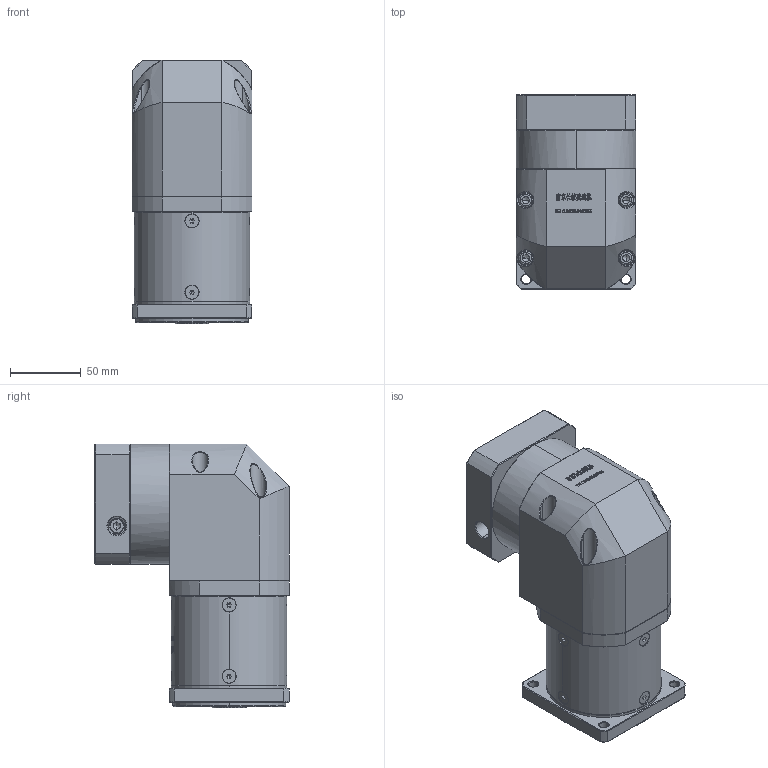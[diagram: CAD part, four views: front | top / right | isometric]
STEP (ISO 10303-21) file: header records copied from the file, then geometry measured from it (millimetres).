
FILE_DESCRIPTION (( 'STEP AP214' ), '1' );
FILE_NAME ('ZFR80-K15-L2-19-70-90-M6.step', '2022-05-08T12:08:26', ( '' ), ( 'Microsoft' ), 'SwSTEP 2.0', 'SolidWorks 2016', '' );
FILE_SCHEMA (( 'AUTOMOTIVE_DESIGN' ));
Length unit declared in the file: millimetre
Products named in the file (1): ZFR80-K15-L2-19-70-90-M6
Bounding box: 85 x 137.6 x 187 mm (x, y, z)
Volume: 1341306.5 mm3; surface area: 138968.7 mm2
Topology: 13 solids, 13 shells, 3010 faces, 7916 edges, 5053 vertices
Faces by surface type: plane 1612, bspline 614, cylinder 416, cone 354, torus 14
Entity records: 158954 total; most frequent: CARTESIAN_POINT 57083, ORIENTED_EDGE 15744, DIRECTION 11873, EDGE_CURVE 7872, VERTEX_POINT 5053, VECTOR 4925, LINE 4925, AXIS2_PLACEMENT_3D 3474
